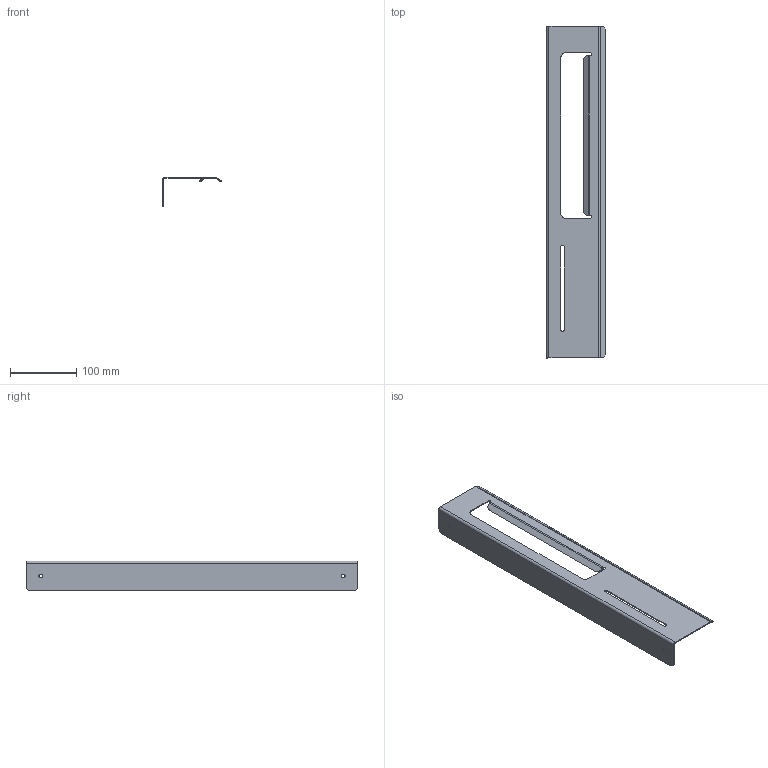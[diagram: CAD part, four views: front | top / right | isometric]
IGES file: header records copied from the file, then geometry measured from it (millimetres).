
Start section: IGES file generated by C3D Converter 1.5 translator by C3D Labs., translator version IGESOUT-5.1.
Global section: file name: D:\×åðòåæè èçäåëèé Âàííà 2023\Ïîëêè Simple Íîâûå\3D\×åðòåæè 22.07.2023\3D\S²MPLE_2_500_P250_RIGHT.igs; preprocessor: 1.0; author: a.kalenyk83@gmail.com; organization: unknown; date: -17770622:111745; units: millimetre
Bounding box: 88.5 x 500 x 45 mm (x, y, z)
Volume: 85655.7 mm3; surface area: 117440.4 mm2
Topology: 1 solids, 1 shells, 52 faces, 126 edges, 76 vertices
Faces by surface type: bspline 30, revolution 22
